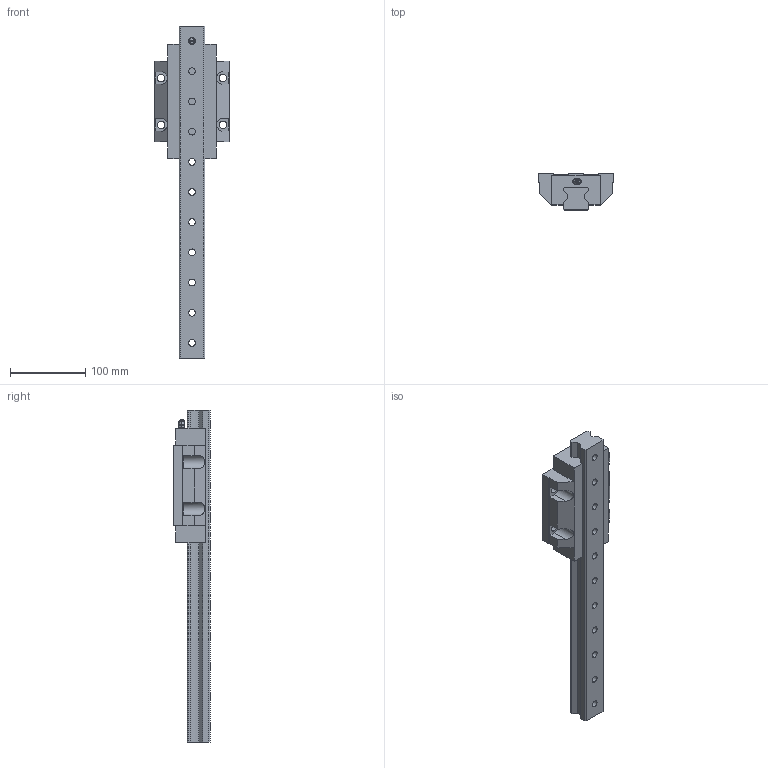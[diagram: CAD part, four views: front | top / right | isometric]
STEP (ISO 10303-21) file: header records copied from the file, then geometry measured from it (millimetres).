
FILE_DESCRIPTION(('STEP AP214'),'1');
FILE_NAME('D:/ModelConvertServices/Model.001/SVC.ACISConvertServices001/output/347fd635-681c-4608-bdcf-527640d6cd35/1_RGW35HC1R440ZOH.step','2022-07-23T04:37:15',(' '),(' '),'Spatial InterOp 3D',' ',' ');
FILE_SCHEMA(('automotive_design'));
Length unit declared in the file: millimetre
Products named in the file (2): 1; 2
Bounding box: 100 x 48 x 440 mm (x, y, z)
Volume: 750453.5 mm3; surface area: 127909.1 mm2
Topology: 2 solids, 2 shells, 276 faces, 703 edges, 456 vertices
Faces by surface type: plane 144, cylinder 100, cone 30, sphere 2
Entity records: 10668 total; most frequent: CARTESIAN_POINT 1595, DIRECTION 1445, ORIENTED_EDGE 1402, EDGE_CURVE 701, AXIS2_PLACEMENT_3D 514, VERTEX_POINT 456, LINE 417, VECTOR 417
